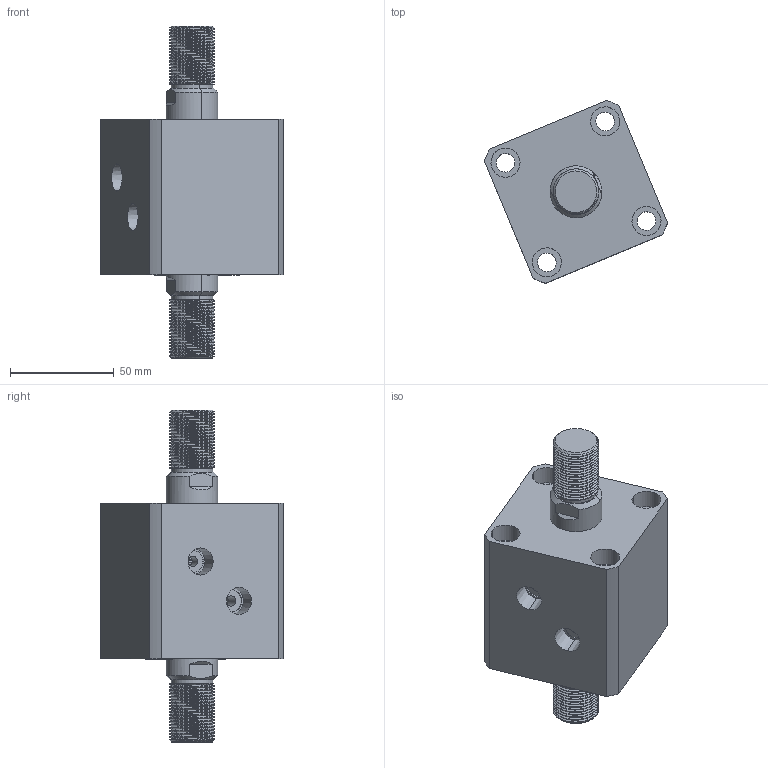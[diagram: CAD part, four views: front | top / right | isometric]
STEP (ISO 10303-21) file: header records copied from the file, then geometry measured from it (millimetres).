
FILE_DESCRIPTION (( 'STEP AP214' ), '1' );
FILE_NAME ('chtb-sw40x5w_asm.STEP', '2018-06-08T08:44:12', ( 'Windows' ), ( 'Microsoft' ), 'SwSTEP 2.0', 'SolidWorks 2015', '' );
FILE_SCHEMA (( 'AUTOMOTIVE_DESIGN' ));
Length unit declared in the file: millimetre
Products named in the file (4): CHTB-SW40X5NHSG; CHTB-SW40X5NBT; CHTB-SD40QG; chtb-sw40x5w_asm
Assembly tree (3 placements, depth 2):
  chtb-sw40x5w_asm
    CHTB-SD40QG
    CHTB-SW40X5NBT
    CHTB-SW40X5NHSG
Bounding box: 88.11 x 88.11 x 160 mm (x, y, z)
Volume: 363625.8 mm3; surface area: 76017.4 mm2
Topology: 3 solids, 3 shells, 254 faces, 680 edges, 452 vertices
Faces by surface type: cylinder 160, plane 46, bspline 18, cone 18, torus 12
Entity records: 17389 total; most frequent: CARTESIAN_POINT 11402, ORIENTED_EDGE 1348, DIRECTION 1094, EDGE_CURVE 674, VERTEX_POINT 452, AXIS2_PLACEMENT_3D 443, EDGE_LOOP 296, ADVANCED_FACE 254
